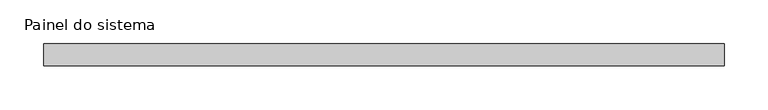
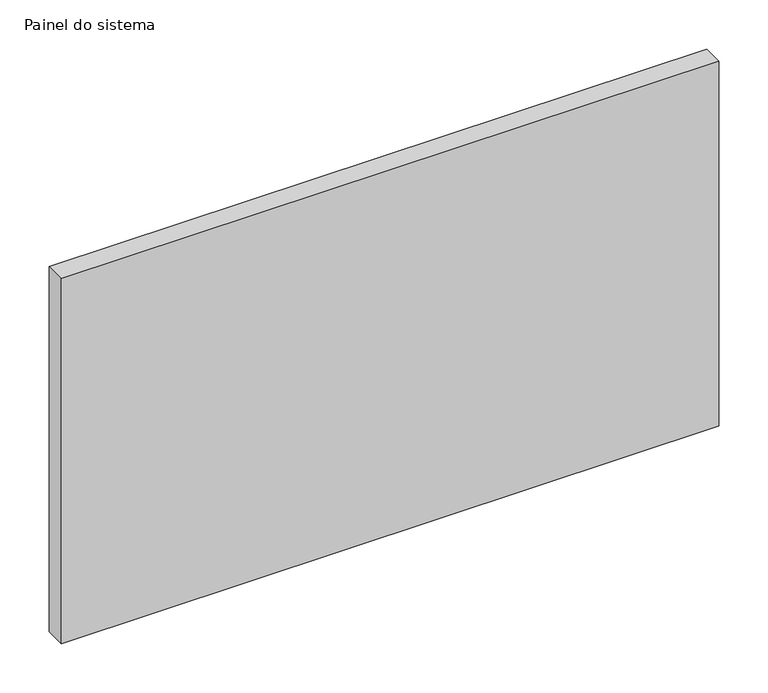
"""IFC4 building model written with IfcOpenShell, lengths in millimetres: plate geometry, Painel do sistema : Envidraçado."""

from ifc_helpers import new_model, si_unit, origin, origin_with_axes, place, context, project, spatial, polyline, outline, extrude, source, transform, mapped, element, save


def painel_do_sistema_b0eab062(model_context):
    return source(origin(), model_context, "Body", "SweptSolid", [
        extrude(outline(polyline([(387.5, 24.5), (-387.5, 24.5), (-387.5, 49.5), (387.5, 49.5), (387.5, 24.5)])), origin_with_axes(), (0.0, 0.0, 1.0), 455.0),
    ])


if __name__ == "__main__":
    model = new_model("IFC4")
    model_context = context("Model", 3, world=origin())
    ifc_project = project(units=[si_unit("LENGTHUNIT", "METRE", prefix="MILLI")], contexts=[model_context])
    site = spatial("IfcSite", under=ifc_project)
    building = spatial("IfcBuilding", under=site)
    placement = place(None, origin())
    painel_do_sistema_shape = painel_do_sistema_b0eab062(model_context)
    element("IfcPlate", 1, ObjectType="Painel do sistema : Envidraçado", at=placement, inside=building, context=model_context, shape_type="MappedRepresentation", body=[
        mapped(painel_do_sistema_shape, transform((0.0, 0.0, 0.0), x_axis=(1.0, 0.0, 0.0), y_axis=(0.0, 1.0, 0.0), z_axis=(0.0, 0.0, 1.0))),
    ])
    save(model, "model.ifc")
